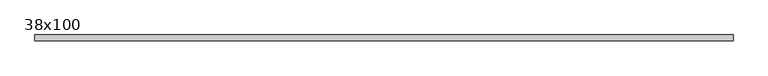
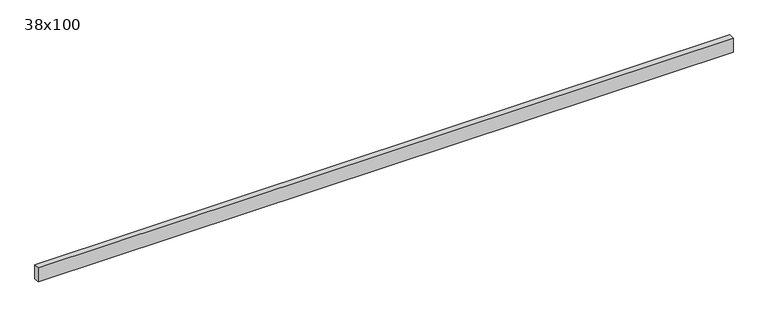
"""IFC4 building model written with IfcOpenShell, lengths in millimetres: beam geometry, Poutre - Bois de construction de dimensions courantes : 38x100."""

from ifc_helpers import new_model, si_unit, frame, origin, place, context, project, spatial, polyline, outline, extrude, source, transform, mapped, element, save


def beam_38x100_50e2af3d(model_context):
    return source(origin(), model_context, "Body", "SweptSolid", [
        extrude(outline(polyline([(2322.5, 19.05), (2322.5, -19.05), (-2322.5, -19.05), (-2322.5, 19.05), (2322.5, 19.05)])), frame((0.0, 0.0, -50.0), z_axis=(0.0, 0.0, 1.0), x_axis=(1.0, 0.0, 0.0)), (0.0, 0.0, 1.0), 100.0),
    ])


if __name__ == "__main__":
    model = new_model("IFC4")
    model_context = context("Model", 3, world=origin())
    ifc_project = project(units=[si_unit("LENGTHUNIT", "METRE", prefix="MILLI")], contexts=[model_context])
    site = spatial("IfcSite", under=ifc_project)
    building = spatial("IfcBuilding", under=site)
    placement = place(None, origin())
    beam_38x100_shape = beam_38x100_50e2af3d(model_context)
    element("IfcBeam", 1, ObjectType="Poutre - Bois de construction de dimensions courantes : 38x100", at=placement, inside=building, context=model_context, shape_type="MappedRepresentation", body=[
        mapped(beam_38x100_shape, transform((0.0, 0.0, 0.0), x_axis=(1.0, 0.0, 0.0), y_axis=(0.0, 1.0, 0.0), z_axis=(0.0, 0.0, 1.0))),
    ])
    save(model, "model.ifc")
